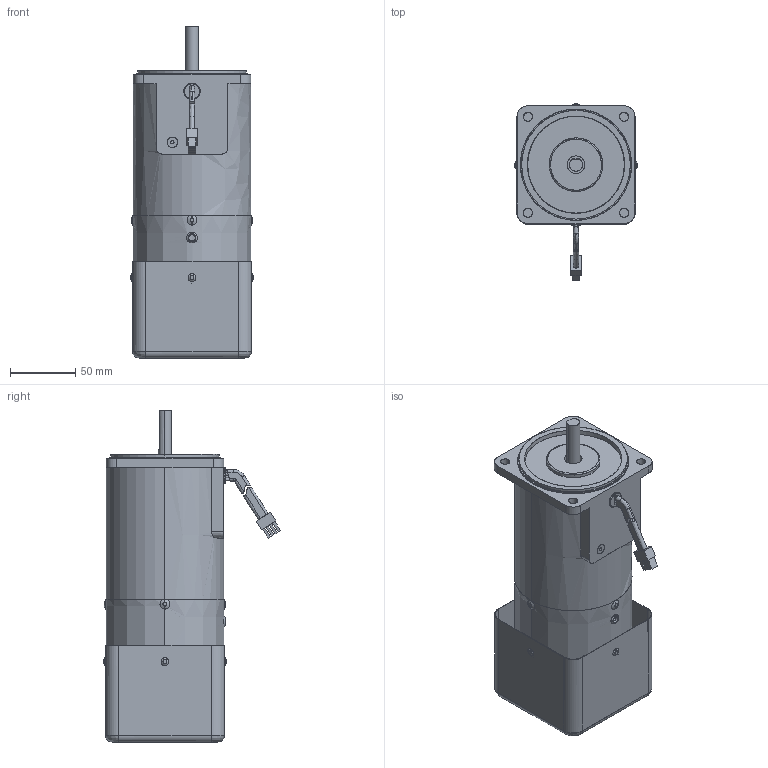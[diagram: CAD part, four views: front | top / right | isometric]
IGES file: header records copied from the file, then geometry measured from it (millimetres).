
Start section: SolidWorks IGES file using analytic representation for surfaces
Global section: file name: \\楷备家烹钦辑滚\data (D)\档搁 枚\权其捞瘤 档搁\9. SPEED BRAKE\90\90W\(9-77) 9SBDD∴-90F2.IGS; native system: SolidWorks 2007; preprocessor: SolidWorks 2007; author: user; date: 150723.140029; units: millimetre
Bounding box: 94 x 135.4 x 254 mm (x, y, z)
Surface area: 219335.3 mm2 (no closed solid volume)
Topology: 0 solids, 0 shells, 464 faces, 9206 edges, 9206 vertices
Faces by surface type: revolution 286, bspline 178
